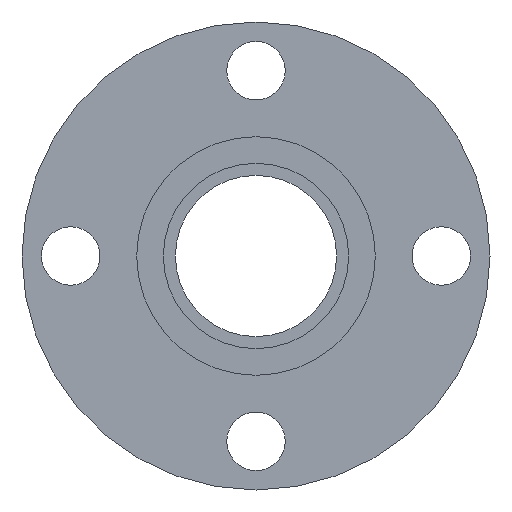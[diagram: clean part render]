
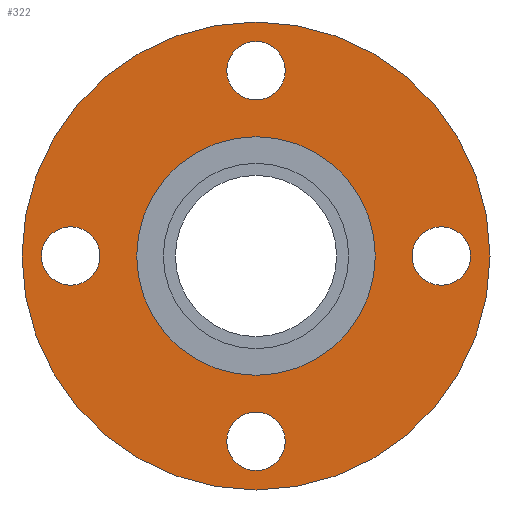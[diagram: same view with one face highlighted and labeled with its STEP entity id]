
A CAD part, left-side view. The second image highlights one B-rep face of the part: STEP entity #322.
In plain terms, the highlighted planar face has unit normal (-1, 0, 0).
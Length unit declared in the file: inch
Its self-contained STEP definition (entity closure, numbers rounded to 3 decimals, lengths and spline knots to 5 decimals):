
#14=FACE_BOUND('',#56,.T.);
#15=FACE_BOUND('',#57,.T.);
#16=FACE_BOUND('',#58,.T.);
#17=FACE_BOUND('',#59,.T.);
#18=FACE_BOUND('',#60,.T.);
#28=PLANE('',#370);
#39=FACE_OUTER_BOUND('',#55,.T.);
#55=EDGE_LOOP('',(#228,#229));
#56=EDGE_LOOP('',(#230));
#57=EDGE_LOOP('',(#231));
#58=EDGE_LOOP('',(#232));
#59=EDGE_LOOP('',(#233));
#60=EDGE_LOOP('',(#234,#235));
#101=CIRCLE('',#355,0.375);
#103=CIRCLE('',#358,0.375);
#105=CIRCLE('',#361,0.375);
#107=CIRCLE('',#364,0.375);
#108=CIRCLE('',#366,3.);
#109=CIRCLE('',#367,3.);
#112=CIRCLE('',#371,1.53);
#113=CIRCLE('',#372,1.53);
#133=VERTEX_POINT('',#513);
#135=VERTEX_POINT('',#519);
#137=VERTEX_POINT('',#525);
#139=VERTEX_POINT('',#531);
#140=VERTEX_POINT('',#535);
#141=VERTEX_POINT('',#536);
#144=VERTEX_POINT('',#545);
#145=VERTEX_POINT('',#546);
#166=EDGE_CURVE('',#133,#133,#101,.T.);
#169=EDGE_CURVE('',#135,#135,#103,.T.);
#172=EDGE_CURVE('',#137,#137,#105,.T.);
#175=EDGE_CURVE('',#139,#139,#107,.T.);
#176=EDGE_CURVE('',#140,#141,#108,.T.);
#177=EDGE_CURVE('',#141,#140,#109,.T.);
#181=EDGE_CURVE('',#144,#145,#112,.T.);
#182=EDGE_CURVE('',#145,#144,#113,.T.);
#228=ORIENTED_EDGE('',*,*,#176,.T.);
#229=ORIENTED_EDGE('',*,*,#177,.T.);
#230=ORIENTED_EDGE('',*,*,#166,.T.);
#231=ORIENTED_EDGE('',*,*,#169,.T.);
#232=ORIENTED_EDGE('',*,*,#172,.T.);
#233=ORIENTED_EDGE('',*,*,#175,.T.);
#234=ORIENTED_EDGE('',*,*,#181,.F.);
#235=ORIENTED_EDGE('',*,*,#182,.F.);
#322=ADVANCED_FACE('',(#39,#14,#15,#16,#17,#18),#28,.T.);
#355=AXIS2_PLACEMENT_3D('',#515,#408,#409);
#358=AXIS2_PLACEMENT_3D('',#521,#415,#416);
#361=AXIS2_PLACEMENT_3D('',#527,#422,#423);
#364=AXIS2_PLACEMENT_3D('',#533,#429,#430);
#366=AXIS2_PLACEMENT_3D('',#537,#433,#434);
#367=AXIS2_PLACEMENT_3D('',#538,#435,#436);
#370=AXIS2_PLACEMENT_3D('',#544,#442,#443);
#371=AXIS2_PLACEMENT_3D('',#547,#444,#445);
#372=AXIS2_PLACEMENT_3D('',#548,#446,#447);
#408=DIRECTION('center_axis',(1.,0.,0.));
#409=DIRECTION('ref_axis',(0.,-1.,0.));
#415=DIRECTION('center_axis',(1.,0.,0.));
#416=DIRECTION('ref_axis',(0.,0.,-1.));
#422=DIRECTION('center_axis',(1.,0.,0.));
#423=DIRECTION('ref_axis',(0.,1.,0.));
#429=DIRECTION('center_axis',(1.,0.,0.));
#430=DIRECTION('ref_axis',(0.,0.,1.));
#433=DIRECTION('center_axis',(-1.,0.,0.));
#434=DIRECTION('ref_axis',(0.,0.,1.));
#435=DIRECTION('center_axis',(-1.,0.,0.));
#436=DIRECTION('ref_axis',(0.,0.,1.));
#442=DIRECTION('center_axis',(-1.,0.,0.));
#443=DIRECTION('ref_axis',(0.,0.,1.));
#444=DIRECTION('center_axis',(-1.,0.,0.));
#445=DIRECTION('ref_axis',(0.,0.,1.));
#446=DIRECTION('center_axis',(-1.,0.,0.));
#447=DIRECTION('ref_axis',(0.,0.,1.));
#513=CARTESIAN_POINT('',(-0.75,2.75,0.));
#515=CARTESIAN_POINT('Origin',(-0.75,2.375,0.));
#519=CARTESIAN_POINT('',(-0.75,0.,2.75));
#521=CARTESIAN_POINT('Origin',(-0.75,0.,2.375));
#525=CARTESIAN_POINT('',(-0.75,-2.75,0.));
#527=CARTESIAN_POINT('Origin',(-0.75,-2.375,0.));
#531=CARTESIAN_POINT('',(-0.75,0.,-2.75));
#533=CARTESIAN_POINT('Origin',(-0.75,0.,-2.375));
#535=CARTESIAN_POINT('',(-0.75,0.,3.));
#536=CARTESIAN_POINT('',(-0.75,0.,-3.));
#537=CARTESIAN_POINT('Origin',(-0.75,0.,0.));
#538=CARTESIAN_POINT('Origin',(-0.75,0.,0.));
#544=CARTESIAN_POINT('Origin',(-0.75,0.,2.265));
#545=CARTESIAN_POINT('',(-0.75,0.,1.53));
#546=CARTESIAN_POINT('',(-0.75,0.,-1.53));
#547=CARTESIAN_POINT('Origin',(-0.75,0.,0.));
#548=CARTESIAN_POINT('Origin',(-0.75,0.,0.));
